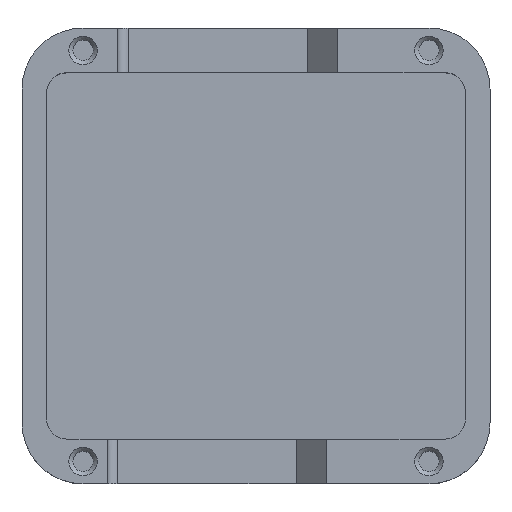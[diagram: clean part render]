
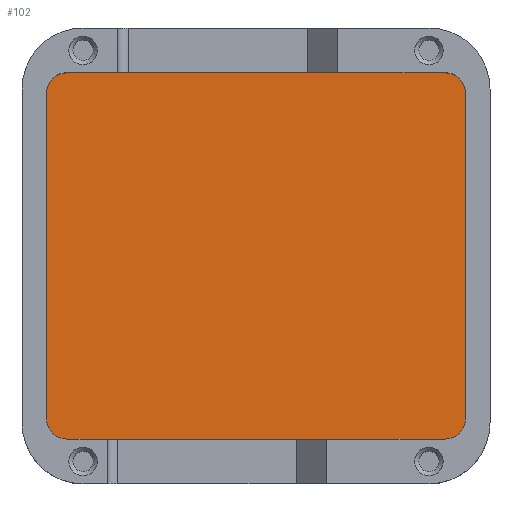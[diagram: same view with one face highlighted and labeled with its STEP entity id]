
A CAD part, top view. The second image highlights one B-rep face of the part: STEP entity #102.
In plain terms, the highlighted planar face has unit normal (0, 0, 1).
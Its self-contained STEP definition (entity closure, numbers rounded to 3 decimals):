
#102=ADVANCED_FACE('',(#184),#156,.T.);
#156=PLANE('',#956);
#184=FACE_OUTER_BOUND('',#228,.T.);
#228=EDGE_LOOP('',(#393,#394,#395,#396,#397,#398,#399,#400,#401,#402,#403,
#404));
#291=CIRCLE('',#952,1.);
#292=CIRCLE('',#953,1.);
#293=CIRCLE('',#954,1.);
#294=CIRCLE('',#955,1.);
#393=ORIENTED_EDGE('',*,*,#698,.F.);
#394=ORIENTED_EDGE('',*,*,#713,.T.);
#395=ORIENTED_EDGE('',*,*,#703,.F.);
#396=ORIENTED_EDGE('',*,*,#714,.F.);
#397=ORIENTED_EDGE('',*,*,#662,.F.);
#398=ORIENTED_EDGE('',*,*,#715,.T.);
#399=ORIENTED_EDGE('',*,*,#707,.F.);
#400=ORIENTED_EDGE('',*,*,#716,.T.);
#401=ORIENTED_EDGE('',*,*,#712,.F.);
#402=ORIENTED_EDGE('',*,*,#717,.F.);
#403=ORIENTED_EDGE('',*,*,#667,.F.);
#404=ORIENTED_EDGE('',*,*,#718,.T.);
#582=VERTEX_POINT('',#1341);
#583=VERTEX_POINT('',#1343);
#587=VERTEX_POINT('',#1352);
#588=VERTEX_POINT('',#1354);
#615=VERTEX_POINT('',#1414);
#618=VERTEX_POINT('',#1419);
#619=VERTEX_POINT('',#1423);
#623=VERTEX_POINT('',#1430);
#624=VERTEX_POINT('',#1434);
#627=VERTEX_POINT('',#1439);
#628=VERTEX_POINT('',#1443);
#632=VERTEX_POINT('',#1450);
#662=EDGE_CURVE('',#582,#583,#781,.T.);
#667=EDGE_CURVE('',#587,#588,#786,.T.);
#698=EDGE_CURVE('',#618,#615,#811,.T.);
#703=EDGE_CURVE('',#623,#619,#815,.T.);
#707=EDGE_CURVE('',#627,#624,#819,.T.);
#712=EDGE_CURVE('',#632,#628,#824,.T.);
#713=EDGE_CURVE('',#618,#619,#291,.T.);
#714=EDGE_CURVE('',#583,#623,#825,.T.);
#715=EDGE_CURVE('',#582,#624,#292,.T.);
#716=EDGE_CURVE('',#627,#628,#293,.T.);
#717=EDGE_CURVE('',#588,#632,#826,.T.);
#718=EDGE_CURVE('',#587,#615,#294,.T.);
#781=LINE('',#1342,#855);
#786=LINE('',#1353,#860);
#811=LINE('',#1420,#885);
#815=LINE('',#1431,#889);
#819=LINE('',#1440,#893);
#824=LINE('',#1451,#898);
#825=LINE('',#1454,#899);
#826=LINE('',#1457,#900);
#855=VECTOR('',#1053,1.);
#860=VECTOR('',#1060,1.);
#885=VECTOR('',#1107,1.);
#889=VECTOR('',#1115,1.);
#893=VECTOR('',#1121,1.);
#898=VECTOR('',#1128,1.);
#899=VECTOR('',#1133,1.);
#900=VECTOR('',#1138,1.);
#952=AXIS2_PLACEMENT_3D('',#1453,#1131,#1132);
#953=AXIS2_PLACEMENT_3D('',#1455,#1134,#1135);
#954=AXIS2_PLACEMENT_3D('',#1456,#1136,#1137);
#955=AXIS2_PLACEMENT_3D('',#1458,#1139,#1140);
#956=AXIS2_PLACEMENT_3D('',#1459,#1141,#1142);
#1053=DIRECTION('',(-1.,0.,0.));
#1060=DIRECTION('',(1.,0.,0.));
#1107=DIRECTION('',(0.,1.,0.));
#1115=DIRECTION('',(-1.,0.,0.));
#1121=DIRECTION('',(0.,-1.,0.));
#1128=DIRECTION('',(1.,0.,0.));
#1131=DIRECTION('',(0.,0.,1.));
#1132=DIRECTION('',(1.,0.,0.));
#1133=DIRECTION('',(-1.,0.,0.));
#1134=DIRECTION('',(0.,0.,1.));
#1135=DIRECTION('',(1.,0.,0.));
#1136=DIRECTION('',(0.,0.,1.));
#1137=DIRECTION('',(1.,0.,0.));
#1138=DIRECTION('',(1.,0.,0.));
#1139=DIRECTION('',(0.,0.,1.));
#1140=DIRECTION('',(1.,0.,0.));
#1141=DIRECTION('',(0.,0.,1.));
#1142=DIRECTION('',(1.,0.,0.));
#1341=CARTESIAN_POINT('',(9.3,-9.,0.6));
#1342=CARTESIAN_POINT('',(-10.3,-9.,0.6));
#1343=CARTESIAN_POINT('',(2.071,-9.,0.6));
#1352=CARTESIAN_POINT('',(-9.3,9.,0.6));
#1353=CARTESIAN_POINT('',(10.3,9.,0.6));
#1354=CARTESIAN_POINT('',(-6.588,9.,0.6));
#1414=CARTESIAN_POINT('',(-10.3,8.,0.6));
#1419=CARTESIAN_POINT('',(-10.3,-8.,0.6));
#1420=CARTESIAN_POINT('',(-10.3,9.,0.6));
#1423=CARTESIAN_POINT('',(-9.3,-9.,0.6));
#1430=CARTESIAN_POINT('',(-7.096,-9.,0.6));
#1431=CARTESIAN_POINT('',(-10.3,-9.,0.6));
#1434=CARTESIAN_POINT('',(10.3,-8.,0.6));
#1439=CARTESIAN_POINT('',(10.3,8.,0.6));
#1440=CARTESIAN_POINT('',(10.3,-9.,0.6));
#1443=CARTESIAN_POINT('',(9.3,9.,0.6));
#1450=CARTESIAN_POINT('',(2.612,9.,0.6));
#1451=CARTESIAN_POINT('',(10.3,9.,0.6));
#1453=CARTESIAN_POINT('',(-9.3,-8.,0.6));
#1454=CARTESIAN_POINT('',(-10.3,-9.,0.6));
#1455=CARTESIAN_POINT('',(9.3,-8.,0.6));
#1456=CARTESIAN_POINT('',(9.3,8.,0.6));
#1457=CARTESIAN_POINT('',(10.3,9.,0.6));
#1458=CARTESIAN_POINT('',(-9.3,8.,0.6));
#1459=CARTESIAN_POINT('',(0.,0.,0.6));
